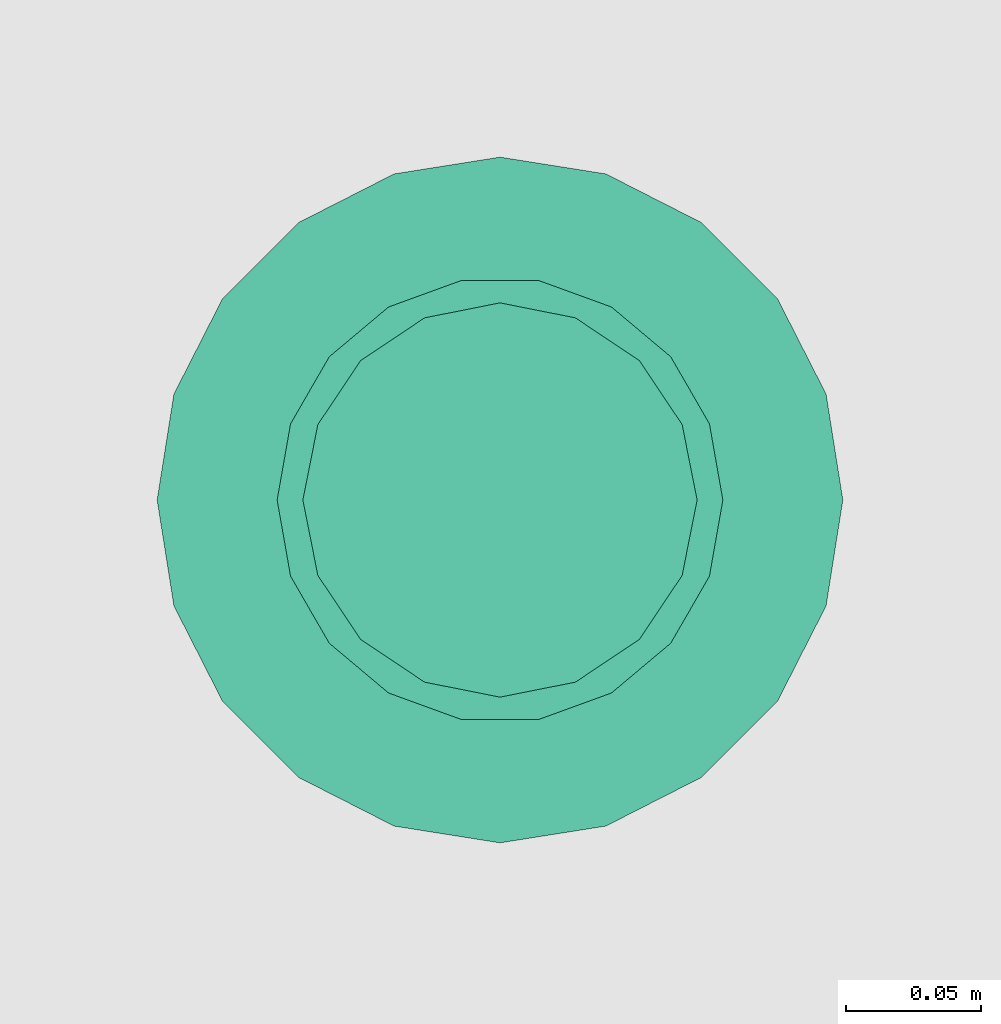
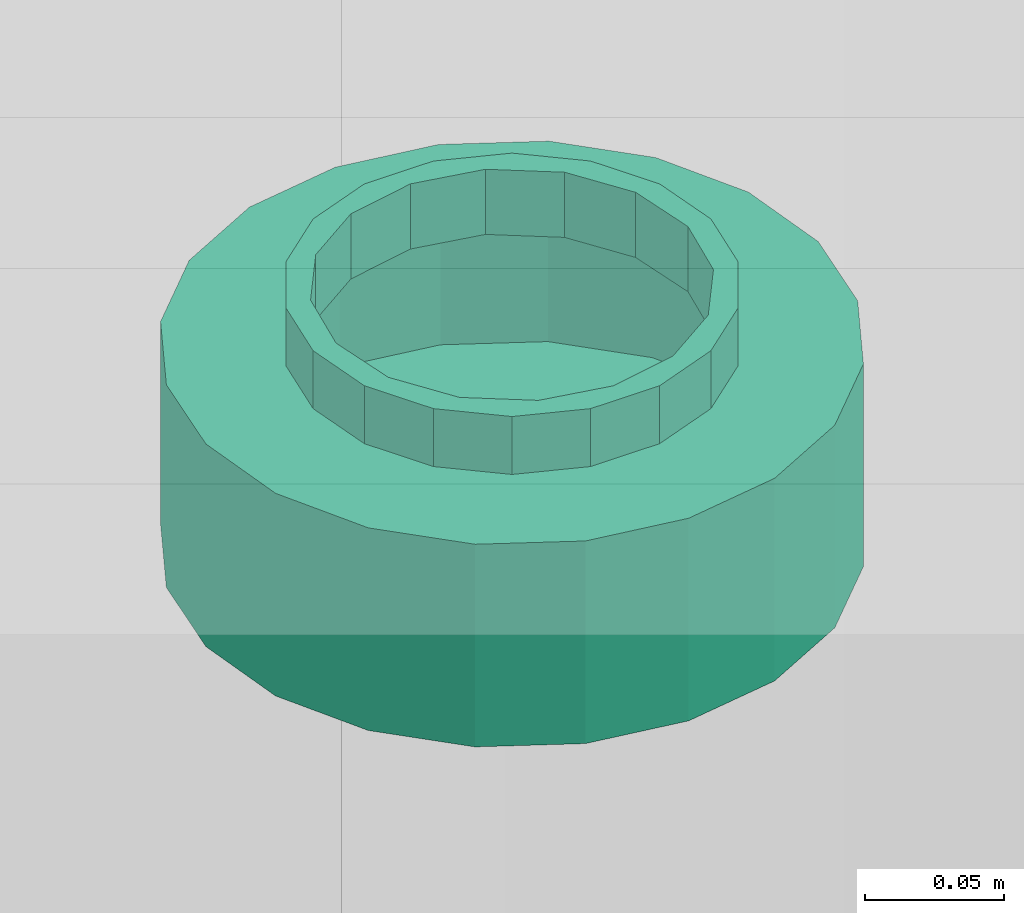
# One storey, part 20 of 28: 1 flow terminal.
"""IFC2X3 building model written with IfcOpenShell, lengths in feet."""

from ifc_helpers import new_model, entity, si_unit, converted_unit, derived_unit, direction, frame, origin, place, context, subcontext, project, spatial, faceted_brep, source, transform, mapped, material, material_list, type_object, type_shapes, element, save


model = new_model("IFC2X3")

# Units and contexts
model_context = context("Model", 3, precision=0.0001, world=origin(), true_north=direction((6.12303176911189e-17, 1.0)))
body_context = subcontext(model_context, "Body", "Model", "MODEL_VIEW")
ifc_project = project(units=[converted_unit("LENGTHUNIT", "FOOT", entity("IfcRatioMeasure", 0.3048), si_unit("LENGTHUNIT", "METRE"), dimensions=[1, 0, 0, 0, 0, 0, 0]), converted_unit("AREAUNIT", "SQUARE FOOT", entity("IfcRatioMeasure", 0.09290304), si_unit("AREAUNIT", "SQUARE_METRE"), dimensions=[2, 0, 0, 0, 0, 0, 0]), converted_unit("VOLUMEUNIT", "CUBIC FOOT", entity("IfcRatioMeasure", 0.028316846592), si_unit("VOLUMEUNIT", "CUBIC_METRE"), dimensions=[3, 0, 0, 0, 0, 0, 0]), converted_unit("PLANEANGLEUNIT", "DEGREE", entity("IfcRatioMeasure", 0.0174532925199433), si_unit("PLANEANGLEUNIT", "RADIAN"), dimensions=[0, 0, 0, 0, 0, 0, 0]), si_unit("MASSUNIT", "GRAM", prefix="KILO"), derived_unit("MASSDENSITYUNIT", [(si_unit("MASSUNIT", "GRAM", prefix="KILO"), 1), (si_unit("LENGTHUNIT", "METRE"), -3)]), si_unit("TIMEUNIT", "SECOND"), si_unit("FREQUENCYUNIT", "HERTZ"), si_unit("THERMODYNAMICTEMPERATUREUNIT", "DEGREE_CELSIUS"), derived_unit("THERMALTRANSMITTANCEUNIT", [(si_unit("MASSUNIT", "GRAM", prefix="KILO"), 1), (si_unit("THERMODYNAMICTEMPERATUREUNIT", "KELVIN"), -1), (si_unit("TIMEUNIT", "SECOND"), -3)]), derived_unit("VOLUMETRICFLOWRATEUNIT", [(si_unit("LENGTHUNIT", "METRE"), 3), (si_unit("TIMEUNIT", "SECOND"), -1)]), si_unit("ELECTRICCURRENTUNIT", "AMPERE"), si_unit("ELECTRICVOLTAGEUNIT", "VOLT"), si_unit("POWERUNIT", "WATT"), si_unit("FORCEUNIT", "NEWTON"), si_unit("ILLUMINANCEUNIT", "LUX"), si_unit("LUMINOUSFLUXUNIT", "LUMEN"), si_unit("LUMINOUSINTENSITYUNIT", "CANDELA"), derived_unit("USERDEFINED", [(si_unit("MASSUNIT", "GRAM", prefix="KILO"), -1), (si_unit("LENGTHUNIT", "METRE"), -2), (si_unit("TIMEUNIT", "SECOND"), 3), (si_unit("LUMINOUSFLUXUNIT", "LUMEN"), 1)]), derived_unit("LINEARVELOCITYUNIT", [(si_unit("LENGTHUNIT", "METRE"), 1), (si_unit("TIMEUNIT", "SECOND"), -1)]), si_unit("PRESSUREUNIT", "PASCAL"), derived_unit("USERDEFINED", [(si_unit("LENGTHUNIT", "METRE"), -2), (si_unit("MASSUNIT", "GRAM", prefix="KILO"), 1), (si_unit("TIMEUNIT", "SECOND"), -2)])], contexts=[model_context])

# Site, building, storey
site_placement = place(None, origin())
site = spatial("IfcSite", under=ifc_project, at=site_placement, Name="表面", CompositionType="ELEMENT")
building_placement = place(site_placement, origin())
building = spatial("IfcBuilding", under=site, at=building_placement, CompositionType="ELEMENT")
storey_placement = place(building_placement, frame((0.0, 0.0, 10.0)))
storey = spatial("IfcBuildingStorey", under=building, at=storey_placement, Name="Level 2", CompositionType="ELEMENT", Elevation=9.99999999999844)

# Flow terminal
ifc_material_1 = material(Name="Metal - Paint Finish - Dark Gray, Matte")
ifc_material_2 = material(Name="Glass - White, High Luminance")
ifc_material_list_1 = material_list([ifc_material_1, ifc_material_2])
ifc_material_list_2 = material_list([ifc_material_1, ifc_material_2])
light_fixture_type = type_object("IfcLightFixtureType", Name="100W - 277V", PredefinedType="NOTDEFINED", material=ifc_material_list_2)
shared_shape = source(origin(), body_context, "Body", "Brep", [
    faceted_brep([(0.557291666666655, 0.187326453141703, 0.374999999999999), (0.598651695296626, 0.245098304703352, 0.374999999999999), (0.558098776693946, 0.218001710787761, 0.374999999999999), (0.629345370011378, 0.247786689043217, 0.374999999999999), (0.517545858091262, 0.190905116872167, 0.374999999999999), (0.468904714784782, 0.155156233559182, 0.374999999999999), (0.625748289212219, 0.285651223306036, 0.374999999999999), (0.65284488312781, 0.326204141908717, 0.374999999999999), (0.676375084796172, 0.329244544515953, 0.374999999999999), (0.6623599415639, 0.374039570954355, 0.374999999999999), (0.671874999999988, 0.42187499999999, 0.374999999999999), (0.692708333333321, 0.421874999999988, 0.374999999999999), (0.676375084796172, 0.514505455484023, 0.374999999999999), (0.662359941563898, 0.469710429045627, 0.374999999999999), (0.652844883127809, 0.517545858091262, 0.374999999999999), (0.629345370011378, 0.595963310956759, 0.374999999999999), (0.625748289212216, 0.558098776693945, 0.374999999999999), (0.598651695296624, 0.598651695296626, 0.374999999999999), (0.557291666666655, 0.656423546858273, 0.374999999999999), (0.55809877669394, 0.625748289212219, 0.374999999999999), (0.517545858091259, 0.65284488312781, 0.374999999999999), (0.468904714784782, 0.688593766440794, 0.374999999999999), (0.469710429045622, 0.662359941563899, 0.374999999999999), (0.421874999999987, 0.671874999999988, 0.374999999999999), (0.374845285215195, 0.688593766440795, 0.374999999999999), (0.374039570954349, 0.662359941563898, 0.374999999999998), (0.326204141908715, 0.652844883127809, 0.374999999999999), (0.286458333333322, 0.656423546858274, 0.374999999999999), (0.285651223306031, 0.625748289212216, 0.374999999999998), (0.245098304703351, 0.598651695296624, 0.374999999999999), (0.214404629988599, 0.59596331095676, 0.374999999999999), (0.218001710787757, 0.558098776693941, 0.374999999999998), (0.190905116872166, 0.51754585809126, 0.374999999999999), (0.167374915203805, 0.514505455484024, 0.374999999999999), (0.181390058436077, 0.469710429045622, 0.374999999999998), (0.171874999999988, 0.421874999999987, 0.374999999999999), (0.151041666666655, 0.421874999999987, 0.374999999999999), (0.167374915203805, 0.329244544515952, 0.374999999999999), (0.181390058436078, 0.374039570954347, 0.374999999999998), (0.190905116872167, 0.326204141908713, 0.374999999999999), (0.214404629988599, 0.247786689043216, 0.374999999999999), (0.218001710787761, 0.28565122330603, 0.374999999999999), (0.245098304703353, 0.245098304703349, 0.374999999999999), (0.286458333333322, 0.187326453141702, 0.374999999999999), (0.285651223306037, 0.218001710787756, 0.374999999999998), (0.326204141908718, 0.190905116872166, 0.374999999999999), (0.374845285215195, 0.155156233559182, 0.374999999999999), (0.42187499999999, 0.171874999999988, 0.374999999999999), (0.374039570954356, 0.181390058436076, 0.374999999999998), (0.469710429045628, 0.181390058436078, 0.374999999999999), (0.557291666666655, 0.656423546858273, 0.291666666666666), (0.598651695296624, 0.598651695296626, 0.291666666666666), (0.55809877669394, 0.625748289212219, 0.291666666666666), (0.629345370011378, 0.595963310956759, 0.291666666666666), (0.517545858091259, 0.65284488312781, 0.291666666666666), (0.468904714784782, 0.688593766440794, 0.291666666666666), (0.625748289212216, 0.558098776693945, 0.291666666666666), (0.652844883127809, 0.517545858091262, 0.291666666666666), (0.676375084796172, 0.514505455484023, 0.291666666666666), (0.662359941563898, 0.469710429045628, 0.291666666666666), (0.671874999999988, 0.42187499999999, 0.291666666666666), (0.692708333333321, 0.421874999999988, 0.291666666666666), (0.676375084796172, 0.329244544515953, 0.291666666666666), (0.659760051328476, 0.36096904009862, 0.291666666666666), (0.65284488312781, 0.326204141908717, 0.291666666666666), (0.629345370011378, 0.247786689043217, 0.291666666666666), (0.625748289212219, 0.285651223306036, 0.291666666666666), (0.598651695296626, 0.245098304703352, 0.291666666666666), (0.557291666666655, 0.187326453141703, 0.291666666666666), (0.558098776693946, 0.218001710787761, 0.291666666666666), (0.517545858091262, 0.190905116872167, 0.291666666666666), (0.468904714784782, 0.155156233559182, 0.291666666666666), (0.469710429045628, 0.181390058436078, 0.291666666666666), (0.42187499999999, 0.171874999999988, 0.291666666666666), (0.374845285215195, 0.155156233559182, 0.291666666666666), (0.374039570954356, 0.181390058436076, 0.291666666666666), (0.326204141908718, 0.190905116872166, 0.291666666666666), (0.286458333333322, 0.187326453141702, 0.291666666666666), (0.285651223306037, 0.218001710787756, 0.291666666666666), (0.245098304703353, 0.245098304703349, 0.291666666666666), (0.214404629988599, 0.247786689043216, 0.291666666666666), (0.218001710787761, 0.28565122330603, 0.291666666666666), (0.190905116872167, 0.326204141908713, 0.291666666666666), (0.167374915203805, 0.329244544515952, 0.291666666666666), (0.181390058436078, 0.374039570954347, 0.291666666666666), (0.171874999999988, 0.421874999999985, 0.291666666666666), (0.151041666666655, 0.421874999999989, 0.291666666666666), (0.167374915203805, 0.514505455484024, 0.291666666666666), (0.183989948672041, 0.482780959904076, 0.291666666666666), (0.190905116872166, 0.51754585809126, 0.291666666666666), (0.214404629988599, 0.59596331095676, 0.291666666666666), (0.218001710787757, 0.558098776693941, 0.291666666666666), (0.245098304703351, 0.598651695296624, 0.291666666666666), (0.286458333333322, 0.656423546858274, 0.291666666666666), (0.285651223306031, 0.625748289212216, 0.291666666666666), (0.326204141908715, 0.652844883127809, 0.291666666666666), (0.374845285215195, 0.688593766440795, 0.291666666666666), (0.421874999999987, 0.671874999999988, 0.291666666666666), (0.374039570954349, 0.662359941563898, 0.291666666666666), (0.469710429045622, 0.662359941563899, 0.291666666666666)], [[[0, 1, 2]], [[1, 0, 3]], [[0, 2, 4]], [[4, 5, 0]], [[3, 6, 1]], [[3, 7, 6]], [[7, 3, 8]], [[8, 9, 7]], [[8, 10, 9]], [[10, 8, 11]], [[10, 11, 12]], [[12, 13, 10]], [[12, 14, 13]], [[15, 14, 12]], [[15, 16, 14]], [[15, 17, 16]], [[18, 17, 15]], [[18, 19, 17]], [[18, 20, 19]], [[21, 20, 18]], [[21, 22, 20]], [[21, 23, 22]], [[24, 23, 21]], [[24, 25, 23]], [[24, 26, 25]], [[27, 26, 24]], [[27, 28, 26]], [[27, 29, 28]], [[29, 27, 30]], [[30, 31, 29]], [[30, 32, 31]], [[32, 30, 33]], [[33, 34, 32]], [[33, 35, 34]], [[36, 35, 33]], [[37, 35, 36]], [[37, 38, 35]], [[37, 39, 38]], [[39, 37, 40]], [[40, 41, 39]], [[40, 42, 41]], [[42, 40, 43]], [[43, 44, 42]], [[43, 45, 44]], [[45, 43, 46]], [[47, 46, 5]], [[46, 47, 48]], [[46, 48, 45]], [[5, 4, 49]], [[5, 49, 47]], [[50, 51, 52]], [[51, 50, 53]], [[50, 52, 54]], [[54, 55, 50]], [[53, 56, 51]], [[53, 57, 56]], [[57, 53, 58]], [[58, 59, 57]], [[58, 60, 59]], [[60, 58, 61]], [[60, 61, 62]], [[62, 63, 60]], [[62, 64, 63]], [[65, 64, 62]], [[65, 66, 64]], [[65, 67, 66]], [[68, 67, 65]], [[68, 69, 67]], [[68, 70, 69]], [[71, 70, 68]], [[71, 72, 70]], [[71, 73, 72]], [[74, 73, 71]], [[74, 75, 73]], [[74, 76, 75]], [[77, 76, 74]], [[77, 78, 76]], [[77, 79, 78]], [[79, 77, 80]], [[80, 81, 79]], [[80, 82, 81]], [[82, 80, 83]], [[83, 84, 82]], [[83, 85, 84]], [[86, 85, 83]], [[87, 85, 86]], [[87, 88, 85]], [[87, 89, 88]], [[89, 87, 90]], [[90, 91, 89]], [[90, 92, 91]], [[92, 90, 93]], [[93, 94, 92]], [[93, 95, 94]], [[95, 93, 96]], [[97, 96, 55]], [[96, 97, 98]], [[96, 98, 95]], [[55, 54, 99]], [[55, 99, 97]], [[37, 36, 86, 83]], [[43, 40, 80, 77]], [[83, 80, 40, 37]], [[77, 74, 46, 43]], [[74, 71, 5, 46]], [[0, 5, 71, 68]], [[8, 3, 65, 62]], [[68, 65, 3, 0]], [[62, 61, 11, 8]], [[12, 11, 61, 58]], [[18, 15, 53, 50]], [[58, 53, 15, 12]], [[50, 55, 21, 18]], [[55, 96, 24, 21]], [[27, 24, 96, 93]], [[87, 33, 30, 90]], [[90, 30, 27, 93]], [[33, 87, 86, 36]], [[34, 35, 85, 88, 89, 32]], [[89, 91, 92, 29, 31, 32]], [[59, 60, 10, 13, 14, 57]], [[92, 94, 95, 26, 28, 29]], [[23, 25, 26, 95, 98, 97]], [[97, 99, 54, 20, 22, 23]], [[16, 17, 51, 56, 57, 14]], [[54, 52, 51, 17, 19, 20]], [[9, 10, 60, 63, 64, 7]], [[64, 66, 67, 1, 6, 7]], [[84, 85, 35, 38, 39, 82]], [[67, 69, 70, 4, 2, 1]], [[47, 49, 4, 70, 72, 73]], [[73, 75, 76, 45, 48, 47]], [[41, 42, 79, 81, 82, 39]], [[76, 78, 79, 42, 44, 45]]]),
    faceted_brep([(0.671874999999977, 0.421874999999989, 0.291666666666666), (0.838541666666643, 0.421874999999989, 0.291666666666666), (0.81814854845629, 0.550632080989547, 0.291666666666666), (0.818148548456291, 0.293117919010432, 0.291666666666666), (0.659760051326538, 0.360969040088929, 0.291666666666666), (0.662359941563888, 0.469710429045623, 0.291666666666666), (0.6528448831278, 0.326204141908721, 0.291666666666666), (0.758965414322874, 0.176964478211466, 0.291666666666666), (0.625748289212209, 0.28565122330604, 0.291666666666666), (0.598651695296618, 0.24509830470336, 0.291666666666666), (0.666785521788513, 0.084784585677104, 0.291666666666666), (0.558098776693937, 0.218001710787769, 0.291666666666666), (0.517545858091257, 0.190905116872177, 0.291666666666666), (0.550632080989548, 0.025601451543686, 0.291666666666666), (0.469710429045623, 0.181390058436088, 0.291666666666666), (0.421874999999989, 0.171874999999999, 0.291666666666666), (0.42187499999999, 0.00520833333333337, 0.291666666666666), (0.293117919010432, 0.0256014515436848, 0.291666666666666), (0.374039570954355, 0.181390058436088, 0.291666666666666), (0.326204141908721, 0.190905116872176, 0.291666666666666), (0.176964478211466, 0.0847845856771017, 0.291666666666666), (0.285651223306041, 0.218001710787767, 0.291666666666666), (0.24509830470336, 0.245098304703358, 0.291666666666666), (0.0847845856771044, 0.176964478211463, 0.291666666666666), (0.218001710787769, 0.285651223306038, 0.291666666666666), (0.190905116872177, 0.326204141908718, 0.291666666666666), (0.0256014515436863, 0.293117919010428, 0.291666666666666), (0.181390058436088, 0.374039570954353, 0.291666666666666), (0.171874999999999, 0.421874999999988, 0.291666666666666), (0.00520833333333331, 0.421874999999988, 0.291666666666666), (0.0256014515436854, 0.550632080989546, 0.291666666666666), (0.183989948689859, 0.482780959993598, 0.291666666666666), (0.190905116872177, 0.517545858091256, 0.291666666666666), (0.0847845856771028, 0.666785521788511, 0.291666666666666), (0.218001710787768, 0.558098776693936, 0.291666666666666), (0.245098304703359, 0.598651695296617, 0.291666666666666), (0.176964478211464, 0.758965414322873, 0.291666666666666), (0.285651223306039, 0.625748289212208, 0.291666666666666), (0.32620414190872, 0.652844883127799, 0.291666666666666), (0.29311791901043, 0.81814854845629, 0.291666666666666), (0.374039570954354, 0.662359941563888, 0.291666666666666), (0.421874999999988, 0.671874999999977, 0.291666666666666), (0.421874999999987, 0.838541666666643, 0.291666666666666), (0.550632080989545, 0.818148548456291, 0.291666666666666), (0.469710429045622, 0.662359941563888, 0.291666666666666), (0.517545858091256, 0.6528448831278, 0.291666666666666), (0.666785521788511, 0.758965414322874, 0.291666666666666), (0.558098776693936, 0.625748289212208, 0.291666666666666), (0.598651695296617, 0.598651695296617, 0.291666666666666), (0.758965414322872, 0.666785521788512, 0.291666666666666), (0.625748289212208, 0.558098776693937, 0.291666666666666), (0.652844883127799, 0.517545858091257, 0.291666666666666), (0.0256014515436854, 0.550632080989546, 0.0), (0.00520833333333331, 0.421874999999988, 0.0), (0.0847845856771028, 0.666785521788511, 0.0), (0.176964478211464, 0.758965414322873, 0.0), (0.29311791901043, 0.818148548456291, 0.0), (0.421874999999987, 0.838541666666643, 0.0), (0.550632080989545, 0.818148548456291, 0.0), (0.666785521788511, 0.758965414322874, 0.0), (0.758965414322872, 0.666785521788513, 0.0), (0.81814854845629, 0.550632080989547, 0.0), (0.838541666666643, 0.42187499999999, 0.0), (0.818148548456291, 0.293117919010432, 0.0), (0.666785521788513, 0.0847845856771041, 0.0), (0.550632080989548, 0.025601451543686, 0.0), (0.42187499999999, 0.00520833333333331, 0.0), (0.758965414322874, 0.176964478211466, 0.0), (0.293117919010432, 0.0256014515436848, 0.0), (0.176964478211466, 0.0847845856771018, 0.0), (0.0847845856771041, 0.176964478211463, 0.0), (0.025601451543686, 0.293117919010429, 0.0), (0.421874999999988, 0.421874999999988, 0.0), (0.808241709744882, 0.547413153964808, 0.0104166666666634), (0.421874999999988, 0.421874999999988, 0.0104166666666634), (0.828124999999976, 0.421874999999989, 0.0104166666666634), (0.7505381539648, 0.660662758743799, 0.0104166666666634), (0.660662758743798, 0.750538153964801, 0.0104166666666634), (0.547413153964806, 0.808241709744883, 0.0104166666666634), (0.421874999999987, 0.828124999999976, 0.0104166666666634), (0.296336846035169, 0.808241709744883, 0.0104166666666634), (0.183087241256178, 0.750538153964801, 0.0104166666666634), (0.0932118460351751, 0.660662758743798, 0.0104166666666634), (0.0355082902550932, 0.547413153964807, 0.0104166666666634), (0.0156249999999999, 0.421874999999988, 0.0104166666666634), (0.0355082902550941, 0.296336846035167, 0.0104166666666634), (0.0932118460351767, 0.183087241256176, 0.0104166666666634), (0.18308724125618, 0.093211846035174, 0.0104166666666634), (0.296336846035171, 0.0355082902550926, 0.0104166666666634), (0.42187499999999, 0.0156249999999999, 0.0104166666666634), (0.547413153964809, 0.0355082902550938, 0.0104166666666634), (0.6606627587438, 0.0932118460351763, 0.0104166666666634), (0.750538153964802, 0.183087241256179, 0.0104166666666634), (0.808241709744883, 0.296336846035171, 0.0104166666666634), (0.0355082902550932, 0.547413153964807, 0.281249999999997), (0.0156249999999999, 0.421874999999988, 0.281249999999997), (0.0932118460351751, 0.660662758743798, 0.281249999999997), (0.183087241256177, 0.750538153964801, 0.281249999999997), (0.296336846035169, 0.808241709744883, 0.281249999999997), (0.421874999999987, 0.828124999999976, 0.281249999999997), (0.660662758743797, 0.750538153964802, 0.281249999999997), (0.547413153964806, 0.808241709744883, 0.281249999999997), (0.808241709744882, 0.547413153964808, 0.281249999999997), (0.7505381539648, 0.660662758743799, 0.281249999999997), (0.828124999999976, 0.42187499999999, 0.281249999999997), (0.808241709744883, 0.296336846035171, 0.281249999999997), (0.547413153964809, 0.0355082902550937, 0.281249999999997), (0.6606627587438, 0.0932118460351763, 0.281249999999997), (0.42187499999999, 0.0156249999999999, 0.281249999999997), (0.750538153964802, 0.183087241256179, 0.281249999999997), (0.183087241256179, 0.0932118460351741, 0.281249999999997), (0.296336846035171, 0.0355082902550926, 0.281249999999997), (0.0355082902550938, 0.296336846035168, 0.281249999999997), (0.0932118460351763, 0.183087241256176, 0.281249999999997), (0.66145833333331, 0.421874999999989, 0.281249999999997), (0.650878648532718, 0.475062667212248, 0.281249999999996), (0.643221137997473, 0.513559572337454, 0.281249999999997), (0.650878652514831, 0.368687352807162, 0.281249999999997), (0.643221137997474, 0.330190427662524, 0.281249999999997), (0.617253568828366, 0.291327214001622, 0.281249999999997), (0.591285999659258, 0.25246400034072, 0.281249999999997), (0.552422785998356, 0.226496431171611, 0.281249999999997), (0.513559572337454, 0.200528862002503, 0.281249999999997), (0.467717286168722, 0.191410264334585, 0.281249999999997), (0.421874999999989, 0.182291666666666, 0.281249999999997), (0.376032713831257, 0.191410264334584, 0.281249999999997), (0.330190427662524, 0.200528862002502, 0.281249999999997), (0.291327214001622, 0.22649643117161, 0.281249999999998), (0.25246400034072, 0.252464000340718, 0.281249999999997), (0.226496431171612, 0.29132721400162, 0.281249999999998), (0.200528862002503, 0.330190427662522, 0.281249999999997), (0.191410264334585, 0.376032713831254, 0.281249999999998), (0.182291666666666, 0.421874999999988, 0.281249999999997), (0.192871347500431, 0.47506264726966, 0.281249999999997), (0.200528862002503, 0.513559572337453, 0.281249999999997), (0.226496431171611, 0.552422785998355, 0.281249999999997), (0.252464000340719, 0.591285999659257, 0.281249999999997), (0.291327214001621, 0.617253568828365, 0.281249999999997), (0.330190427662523, 0.643221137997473, 0.281249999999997), (0.376032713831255, 0.652339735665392, 0.281249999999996), (0.421874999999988, 0.66145833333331, 0.281249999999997), (0.46771728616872, 0.652339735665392, 0.281249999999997), (0.513559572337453, 0.643221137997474, 0.281249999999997), (0.591285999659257, 0.591285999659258, 0.281249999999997), (0.552422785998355, 0.617253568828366, 0.281249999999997), (0.617253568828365, 0.552422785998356, 0.281249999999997), (0.191410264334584, 0.467717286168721, 0.375), (0.182291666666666, 0.421874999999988, 0.375), (0.200528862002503, 0.513559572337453, 0.375), (0.252464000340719, 0.591285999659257, 0.375), (0.226496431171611, 0.552422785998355, 0.375), (0.330190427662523, 0.643221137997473, 0.375), (0.291327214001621, 0.617253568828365, 0.375), (0.421874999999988, 0.66145833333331, 0.375), (0.376032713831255, 0.652339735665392, 0.375), (0.552422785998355, 0.617253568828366, 0.375), (0.513559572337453, 0.643221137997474, 0.375), (0.591285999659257, 0.591285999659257, 0.375), (0.643221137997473, 0.513559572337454, 0.375), (0.617253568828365, 0.552422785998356, 0.375), (0.46771728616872, 0.652339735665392, 0.375), (0.652339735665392, 0.467717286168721, 0.375), (0.66145833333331, 0.421874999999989, 0.375), (0.652339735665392, 0.376032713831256, 0.375), (0.643221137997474, 0.330190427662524, 0.375), (0.591285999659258, 0.25246400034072, 0.375), (0.617253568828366, 0.291327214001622, 0.375), (0.513559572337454, 0.200528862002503, 0.375), (0.552422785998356, 0.226496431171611, 0.375), (0.421874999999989, 0.182291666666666, 0.375), (0.467717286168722, 0.191410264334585, 0.375), (0.200528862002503, 0.330190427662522, 0.375), (0.192871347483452, 0.368687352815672, 0.375), (0.25246400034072, 0.252464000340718, 0.375), (0.291327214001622, 0.22649643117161, 0.375), (0.330190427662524, 0.200528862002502, 0.375), (0.226496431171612, 0.29132721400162, 0.375), (0.376032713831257, 0.191410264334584, 0.375), (0.671874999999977, 0.421874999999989, 0.375), (0.659760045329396, 0.482780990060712, 0.375), (0.652844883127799, 0.517545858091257, 0.375), (0.662359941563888, 0.374039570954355, 0.375), (0.6528448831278, 0.326204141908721, 0.375), (0.625748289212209, 0.28565122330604, 0.375), (0.598651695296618, 0.24509830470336, 0.375), (0.558098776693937, 0.218001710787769, 0.375), (0.517545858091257, 0.190905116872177, 0.375), (0.469710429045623, 0.181390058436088, 0.375), (0.421874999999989, 0.171874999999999, 0.375), (0.374039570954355, 0.181390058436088, 0.375), (0.326204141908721, 0.190905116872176, 0.375), (0.285651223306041, 0.218001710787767, 0.375), (0.24509830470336, 0.245098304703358, 0.375), (0.218001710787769, 0.285651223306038, 0.375), (0.190905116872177, 0.326204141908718, 0.375), (0.183989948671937, 0.360969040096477, 0.375), (0.171874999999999, 0.421874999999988, 0.375), (0.181390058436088, 0.469710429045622, 0.375), (0.190905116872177, 0.517545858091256, 0.375), (0.218001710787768, 0.558098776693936, 0.375), (0.245098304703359, 0.598651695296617, 0.375), (0.285651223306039, 0.625748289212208, 0.375), (0.32620414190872, 0.652844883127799, 0.375), (0.374039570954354, 0.662359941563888, 0.375), (0.421874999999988, 0.671874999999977, 0.375), (0.469710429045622, 0.662359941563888, 0.375), (0.517545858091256, 0.6528448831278, 0.375), (0.558098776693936, 0.625748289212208, 0.375), (0.598651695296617, 0.598651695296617, 0.375), (0.625748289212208, 0.558098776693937, 0.375)], [[[0, 1, 2]], [[0, 3, 1]], [[3, 0, 4]], [[2, 5, 0]], [[3, 4, 6]], [[7, 3, 6]], [[7, 6, 8]], [[7, 8, 9]], [[10, 7, 9]], [[10, 9, 11]], [[10, 11, 12]], [[10, 12, 13]], [[13, 12, 14]], [[13, 14, 15]], [[16, 13, 15]], [[16, 15, 17]], [[17, 15, 18]], [[17, 18, 19]], [[17, 19, 20]], [[20, 19, 21]], [[20, 21, 22]], [[23, 20, 22]], [[23, 22, 24]], [[23, 24, 25]], [[25, 26, 23]], [[26, 25, 27]], [[26, 27, 28]], [[29, 26, 28]], [[30, 29, 28]], [[30, 28, 31]], [[30, 31, 32]], [[30, 32, 33]], [[33, 32, 34]], [[33, 34, 35]], [[36, 33, 35]], [[36, 35, 37]], [[36, 37, 38]], [[39, 36, 38]], [[39, 38, 40]], [[39, 40, 41]], [[42, 39, 41]], [[42, 41, 43]], [[43, 41, 44]], [[43, 44, 45]], [[46, 43, 45]], [[46, 45, 47]], [[46, 47, 48]], [[46, 48, 49]], [[49, 48, 50]], [[49, 50, 51]], [[49, 51, 2]], [[2, 51, 5]], [[52, 53, 29, 30]], [[30, 33, 54, 52]], [[36, 55, 54, 33]], [[55, 36, 39, 56]], [[56, 39, 42, 57]], [[58, 43, 46, 59]], [[60, 49, 2, 61]], [[46, 49, 60, 59]], [[61, 2, 1, 62]], [[43, 58, 57, 42]], [[1, 3, 63, 62]], [[64, 10, 13, 65]], [[16, 66, 65, 13]], [[63, 3, 7, 67]], [[10, 64, 67, 7]], [[68, 17, 20, 69]], [[70, 23, 26, 71]], [[20, 23, 70, 69]], [[71, 26, 29, 53]], [[17, 68, 66, 16]], [[62, 72, 61]], [[62, 63, 72]], [[72, 63, 67]], [[72, 67, 64]], [[72, 64, 65]], [[65, 66, 72]], [[68, 72, 66]], [[72, 68, 69]], [[72, 69, 70]], [[71, 72, 70]], [[72, 71, 53]], [[72, 53, 52]], [[72, 52, 54]], [[54, 55, 72]], [[72, 55, 56]], [[56, 57, 72]], [[72, 57, 58]], [[59, 72, 58]], [[72, 59, 60]], [[61, 72, 60]], [[73, 74, 75]], [[76, 74, 73]], [[76, 77, 74]], [[78, 74, 77]], [[78, 79, 74]], [[74, 79, 80]], [[80, 81, 74]], [[74, 81, 82]], [[82, 83, 74]], [[83, 84, 74]], [[84, 85, 74]], [[86, 74, 85]], [[86, 87, 74]], [[87, 88, 74]], [[89, 74, 88]], [[74, 89, 90]], [[90, 91, 74]], [[91, 92, 74]], [[92, 93, 74]], [[74, 93, 75]], [[94, 95, 84, 83]], [[82, 96, 94, 83]], [[96, 82, 81, 97]], [[81, 80, 98, 97]], [[98, 80, 79, 99]], [[100, 101, 78, 77]], [[102, 103, 76, 73]], [[77, 76, 103, 100]], [[104, 102, 73, 75]], [[79, 78, 101, 99]], [[105, 104, 75, 93]], [[106, 107, 91, 90]], [[108, 106, 90, 89]], [[93, 92, 109, 105]], [[109, 92, 91, 107]], [[110, 111, 88, 87]], [[112, 113, 86, 85]], [[87, 86, 113, 110]], [[95, 112, 85, 84]], [[89, 88, 111, 108]], [[102, 104, 114]], [[102, 114, 115]], [[102, 115, 116]], [[102, 116, 103]], [[104, 105, 114]], [[105, 117, 114]], [[105, 118, 117]], [[118, 105, 109]], [[109, 119, 118]], [[109, 120, 119]], [[120, 109, 107]], [[107, 121, 120]], [[107, 122, 121]], [[106, 122, 107]], [[106, 123, 122]], [[106, 124, 123]], [[124, 106, 108]], [[111, 124, 108]], [[111, 125, 124]], [[111, 126, 125]], [[110, 126, 111]], [[110, 127, 126]], [[110, 128, 127]], [[128, 110, 113]], [[113, 129, 128]], [[113, 130, 129]], [[113, 112, 130]], [[112, 131, 130]], [[112, 132, 131]], [[132, 112, 95]], [[132, 95, 94]], [[94, 133, 132]], [[94, 134, 133]], [[96, 134, 94]], [[96, 135, 134]], [[96, 136, 135]], [[136, 96, 97]], [[97, 137, 136]], [[97, 138, 137]], [[138, 97, 98]], [[98, 139, 138]], [[98, 140, 139]], [[140, 98, 99]], [[101, 140, 99]], [[101, 141, 140]], [[101, 142, 141]], [[142, 101, 100]], [[103, 143, 100]], [[100, 143, 144]], [[100, 144, 142]], [[103, 116, 145]], [[103, 145, 143]], [[146, 147, 132, 133, 134, 148]], [[136, 149, 150, 148, 134, 135]], [[136, 137, 138, 151, 152, 149]], [[151, 138, 139, 140, 153, 154]], [[155, 156, 142, 144, 143, 157]], [[116, 158, 159, 157, 143, 145]], [[153, 140, 141, 142, 156, 160]], [[161, 158, 116, 115, 114, 162]], [[163, 162, 114, 117, 118, 164]], [[120, 165, 166, 164, 118, 119]], [[120, 121, 122, 167, 168, 165]], [[123, 124, 169, 170, 167, 122]], [[171, 130, 131, 132, 147, 172]], [[128, 173, 174, 175, 126, 127]], [[128, 129, 130, 171, 176, 173]], [[175, 177, 169, 124, 125, 126]], [[162, 178, 179]], [[162, 179, 180]], [[180, 161, 162]], [[162, 181, 178]], [[162, 182, 181]], [[182, 162, 163]], [[182, 163, 164]], [[164, 183, 182]], [[164, 184, 183]], [[184, 164, 166]], [[184, 166, 165]], [[165, 185, 184]], [[165, 186, 185]], [[186, 165, 168]], [[186, 168, 167]], [[167, 187, 186]], [[167, 188, 187]], [[188, 167, 170]], [[188, 170, 169]], [[188, 169, 177]], [[188, 177, 175]], [[175, 189, 188]], [[175, 190, 189]], [[190, 175, 174]], [[190, 174, 173]], [[173, 191, 190]], [[173, 192, 191]], [[192, 173, 176]], [[192, 176, 171]], [[171, 193, 192]], [[171, 194, 193]], [[194, 171, 172]], [[194, 172, 147]], [[147, 195, 194]], [[147, 196, 195]], [[147, 197, 196]], [[147, 198, 197]], [[198, 147, 146]], [[198, 146, 148]], [[148, 199, 198]], [[148, 200, 199]], [[200, 148, 150]], [[200, 150, 149]], [[149, 201, 200]], [[149, 202, 201]], [[202, 149, 152]], [[202, 152, 151]], [[151, 203, 202]], [[151, 204, 203]], [[204, 151, 154]], [[204, 154, 153]], [[204, 153, 160]], [[204, 160, 156]], [[156, 205, 204]], [[156, 206, 205]], [[206, 156, 155]], [[206, 155, 157]], [[157, 207, 206]], [[157, 208, 207]], [[208, 157, 159]], [[208, 159, 158]], [[158, 180, 209]], [[180, 158, 161]], [[158, 209, 208]], [[198, 32, 31, 28, 196, 197]], [[199, 200, 35, 34, 32, 198]], [[200, 201, 202, 38, 37, 35]], [[40, 38, 202, 203, 204, 41]], [[47, 45, 206, 207, 208, 48]], [[178, 0, 5, 51, 180, 179]], [[208, 209, 180, 51, 50, 48]], [[45, 44, 41, 204, 205, 206]], [[182, 6, 4, 0, 178, 181]], [[183, 184, 9, 8, 6, 182]], [[184, 185, 186, 12, 11, 9]], [[187, 188, 15, 14, 12, 186]], [[195, 196, 28, 27, 25, 194]], [[191, 192, 22, 21, 19, 190]], [[192, 193, 194, 25, 24, 22]], [[19, 18, 15, 188, 189, 190]]]),
])
type_shapes(light_fixture_type, [shared_shape])
flow_terminal_placement = place(storey_placement, frame((29.8765452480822, 13.0105186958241, 9.125)))
element("IfcFlowTerminal", 1, at=flow_terminal_placement, inside=storey, type_object=light_fixture_type, material=ifc_material_list_1, Name="Ceiling Light - Flat Round:100W - 277V", ObjectType="100W - 277V", context=body_context, shape_type="MappedRepresentation", body=[
    mapped(shared_shape, transform((0.0, 0.0, 0.0), scale=1.0)),
])

save(model, "model.ifc")
